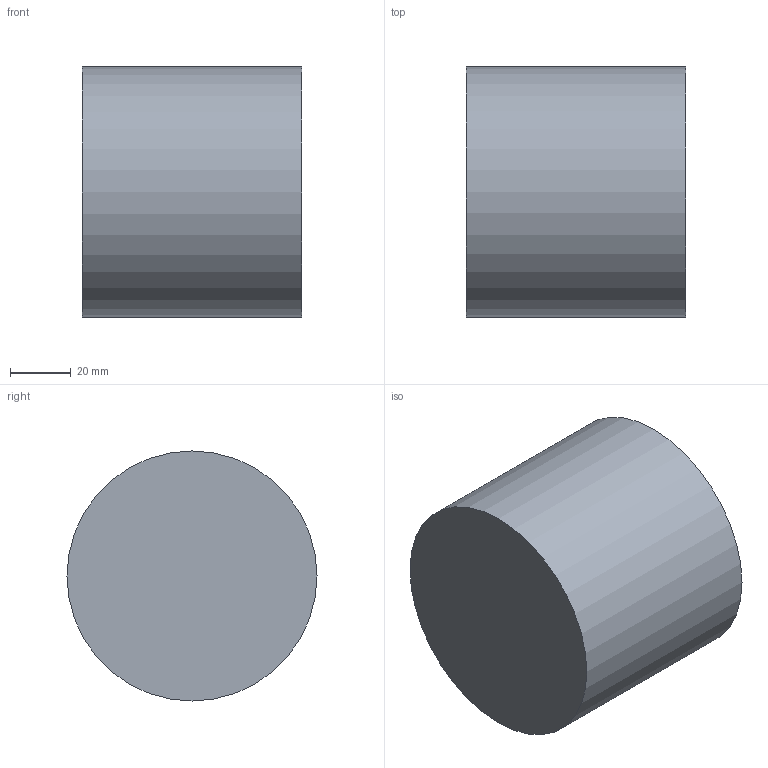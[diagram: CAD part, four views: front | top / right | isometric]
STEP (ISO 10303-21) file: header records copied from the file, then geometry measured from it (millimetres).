
FILE_DESCRIPTION(('Open CASCADE Model'),'2;1');
FILE_NAME('Open CASCADE Shape Model','2026-10-08T06:53:14',('Author'),( 'Open CASCADE'),'Open CASCADE STEP processor 7.8','Open CASCADE 7.8' ,'Unknown');
FILE_SCHEMA(('AUTOMOTIVE_DESIGN { 1 0 10303 214 1 1 1 1 }'));
Length unit declared in the file: millimetre
Products named in the file (1): Open CASCADE STEP translator 7.8 25
Bounding box: 72 x 82 x 82 mm (x, y, z)
Volume: 380233.2 mm3; surface area: 29110 mm2
Topology: 1 solids, 1 shells, 3 faces, 3 edges, 2 vertices
Faces by surface type: plane 2, cylinder 1
Full cylindrical faces by diameter (mm): 82 x1
Entity records: 108 total; most frequent: DIRECTION 19, CARTESIAN_POINT 15, AXIS2_PLACEMENT_3D 6, ORIENTED_EDGE 6, PCURVE 6, DEFINITIONAL_REPRESENTATION 6, LINE 5, VECTOR 5
